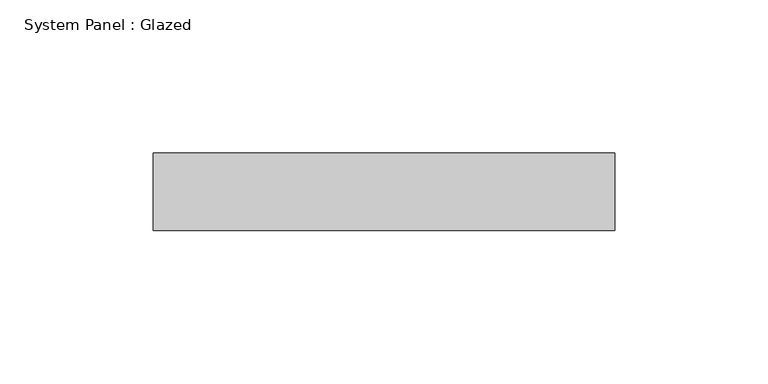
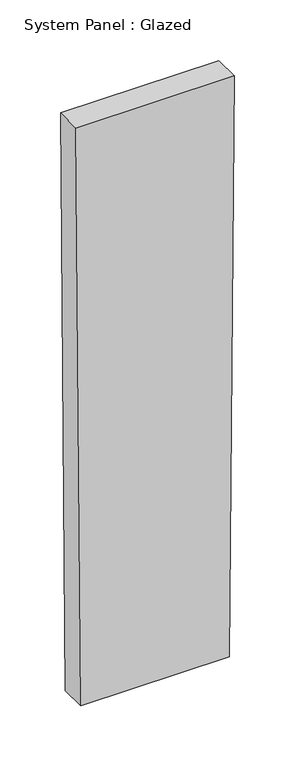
"""IFC4 building model written with IfcOpenShell, lengths in millimetres: plate geometry, System Panel : Glazed."""

from ifc_helpers import new_model, si_unit, frame, origin, place, context, project, spatial, polyline, outline, extrude, source, transform, mapped, element, save


def system_panel_glazed_992b1f32(model_context):
    return source(origin(), model_context, "Body", "SweptSolid", [
        extrude(outline(polyline([(0.0, -70.7950935), (0.0, 70.7950935), (584.1804699, 75.4713939), (584.1804699, -75.4713939), (0.0, -70.7950935)])), frame((0.0, -44.45, 0.0), z_axis=(0.0, 1.0, 0.0), x_axis=(0.0, 0.0, 1.0)), (0.0, 0.0, 1.0), 25.4),
    ])


if __name__ == "__main__":
    model = new_model("IFC4")
    model_context = context("Model", 3, world=origin())
    ifc_project = project(units=[si_unit("LENGTHUNIT", "METRE", prefix="MILLI")], contexts=[model_context])
    site = spatial("IfcSite", under=ifc_project)
    building = spatial("IfcBuilding", under=site)
    placement = place(None, origin())
    system_panel_glazed_shape = system_panel_glazed_992b1f32(model_context)
    element("IfcPlate", 1, ObjectType="System Panel : Glazed", at=placement, inside=building, context=model_context, shape_type="MappedRepresentation", body=[
        mapped(system_panel_glazed_shape, transform((0.0, 0.0, 0.0), x_axis=(1.0, 0.0, 0.0), y_axis=(0.0, 1.0, 0.0), z_axis=(0.0, 0.0, 1.0))),
    ])
    save(model, "model.ifc")
